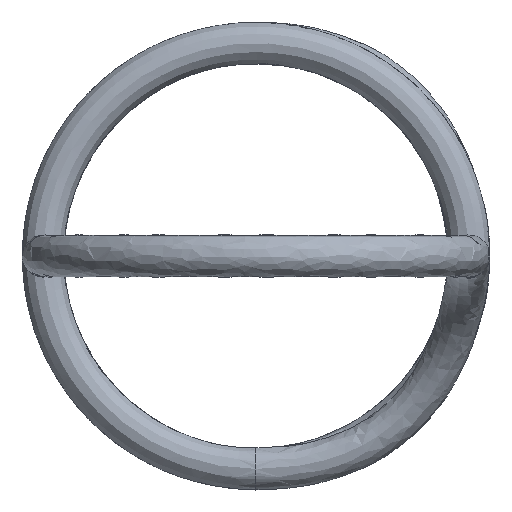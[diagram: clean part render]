
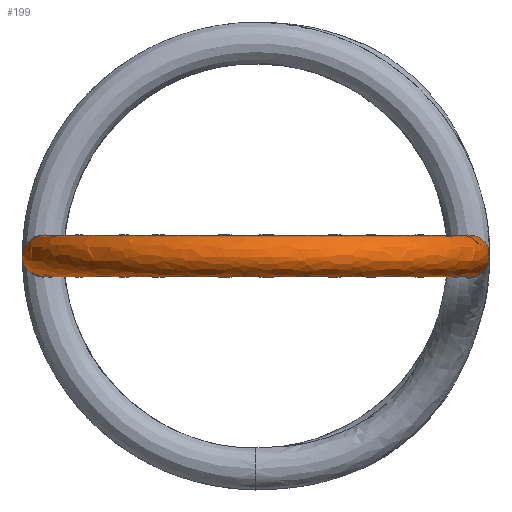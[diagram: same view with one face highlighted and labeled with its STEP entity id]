
A CAD part, front view. The second image highlights one B-rep face of the part: STEP entity #199.
In plain terms, the highlighted free-form (B-spline) face has degree [2, 2] with [9, 7] control points.
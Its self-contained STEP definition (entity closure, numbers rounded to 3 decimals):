
#15=(
BOUNDED_SURFACE()
B_SPLINE_SURFACE(2,2,((#605,#606,#607,#608,#609,#610,#611),(#612,#613,#614,
#615,#616,#617,#618),(#619,#620,#621,#622,#623,#624,#625),(#626,#627,#628,
#629,#630,#631,#632),(#633,#634,#635,#636,#637,#638,#639),(#640,#641,#642,
#643,#644,#645,#646),(#647,#648,#649,#650,#651,#652,#653),(#654,#655,#656,
#657,#658,#659,#660),(#661,#662,#663,#664,#665,#666,#667)),
 .UNSPECIFIED.,.T.,.F.,.F.)
B_SPLINE_SURFACE_WITH_KNOTS((3,2,2,2,3),(3,2,2,3),(0.,1.571,3.142,
4.712,6.283),(0.,1.08,2.16,
3.241),.UNSPECIFIED.)
GEOMETRIC_REPRESENTATION_ITEM()
RATIONAL_B_SPLINE_SURFACE(((1.,0.858,1.,0.858,1.,
0.858,1.),(0.707,0.606,0.707,
0.606,0.707,0.606,0.707),
(1.,0.858,1.,0.858,1.,0.858,1.),(0.707,
0.606,0.707,0.606,0.707,
0.606,0.707),(1.,0.858,1.,0.858,
1.,0.858,1.),(0.707,0.606,0.707,
0.606,0.707,0.606,0.707),
(1.,0.858,1.,0.858,1.,0.858,1.),(0.707,
0.606,0.707,0.606,0.707,
0.606,0.707),(1.,0.858,1.,0.858,
1.,0.858,1.)))
REPRESENTATION_ITEM('')
SURFACE()
);
#22=CIRCLE('',#234,2.25);
#23=CIRCLE('',#235,21.751);
#24=CIRCLE('',#236,2.25);
#37=FACE_OUTER_BOUND('',#48,.T.);
#48=EDGE_LOOP('',(#142,#143,#144,#145));
#85=VERTEX_POINT('',#530);
#88=VERTEX_POINT('',#668);
#106=EDGE_CURVE('',#85,#85,#22,.T.);
#109=EDGE_CURVE('',#85,#88,#23,.T.);
#110=EDGE_CURVE('',#88,#88,#24,.T.);
#142=ORIENTED_EDGE('',*,*,#106,.T.);
#143=ORIENTED_EDGE('',*,*,#109,.T.);
#144=ORIENTED_EDGE('',*,*,#110,.F.);
#145=ORIENTED_EDGE('',*,*,#109,.F.);
#199=ADVANCED_FACE('',(#37),#15,.T.);
#234=AXIS2_PLACEMENT_3D('',#541,#256,#257);
#235=AXIS2_PLACEMENT_3D('',#669,#258,#259);
#236=AXIS2_PLACEMENT_3D('',#670,#260,#261);
#256=DIRECTION('center_axis',(0.,-1.,0.));
#257=DIRECTION('ref_axis',(-0.444,0.,-0.896));
#258=DIRECTION('center_axis',(0.,0.,
-1.));
#259=DIRECTION('ref_axis',(1.,0.,0.));
#260=DIRECTION('center_axis',(0.099,0.995,0.));
#261=DIRECTION('ref_axis',(0.442,-0.044,-0.896));
#530=CARTESIAN_POINT('',(21.751,-78.25,-2.016));
#541=CARTESIAN_POINT('Origin',(22.75,-78.25,0.));
#605=CARTESIAN_POINT('Ctrl Pts',(21.751,-78.25,-2.016));
#606=CARTESIAN_POINT('Ctrl Pts',(21.751,-91.291,-2.016));
#607=CARTESIAN_POINT('Ctrl Pts',(10.248,-97.435,-2.016));
#608=CARTESIAN_POINT('Ctrl Pts',(-1.254,-103.58,-2.016));
#609=CARTESIAN_POINT('Ctrl Pts',(-12.093,-96.329,-2.016));
#610=CARTESIAN_POINT('Ctrl Pts',(-22.933,-89.078,-2.016));
#611=CARTESIAN_POINT('Ctrl Pts',(-21.645,-76.101,-2.016));
#612=CARTESIAN_POINT('Ctrl Pts',(23.767,-78.25,-3.015));
#613=CARTESIAN_POINT('Ctrl Pts',(23.767,-92.499,-3.015));
#614=CARTESIAN_POINT('Ctrl Pts',(11.198,-99.213,-3.015));
#615=CARTESIAN_POINT('Ctrl Pts',(-1.37,-105.927,-3.015));
#616=CARTESIAN_POINT('Ctrl Pts',(-13.214,-98.005,-3.015));
#617=CARTESIAN_POINT('Ctrl Pts',(-25.058,-90.082,-3.015));
#618=CARTESIAN_POINT('Ctrl Pts',(-23.651,-75.902,-3.015));
#619=CARTESIAN_POINT('Ctrl Pts',(24.766,-78.25,-0.999));
#620=CARTESIAN_POINT('Ctrl Pts',(24.766,-93.098,-0.999));
#621=CARTESIAN_POINT('Ctrl Pts',(11.669,-100.095,-0.999));
#622=CARTESIAN_POINT('Ctrl Pts',(-1.428,-107.091,-0.999));
#623=CARTESIAN_POINT('Ctrl Pts',(-13.77,-98.835,-0.999));
#624=CARTESIAN_POINT('Ctrl Pts',(-26.112,-90.579,-0.999));
#625=CARTESIAN_POINT('Ctrl Pts',(-24.645,-75.804,-0.999));
#626=CARTESIAN_POINT('Ctrl Pts',(25.765,-78.25,1.017));
#627=CARTESIAN_POINT('Ctrl Pts',(25.765,-93.697,1.017));
#628=CARTESIAN_POINT('Ctrl Pts',(12.14,-100.976,1.017));
#629=CARTESIAN_POINT('Ctrl Pts',(-1.486,-108.254,1.017));
#630=CARTESIAN_POINT('Ctrl Pts',(-14.325,-99.666,1.017));
#631=CARTESIAN_POINT('Ctrl Pts',(-27.165,-91.077,1.017));
#632=CARTESIAN_POINT('Ctrl Pts',(-25.639,-75.705,1.017));
#633=CARTESIAN_POINT('Ctrl Pts',(23.749,-78.25,2.016));
#634=CARTESIAN_POINT('Ctrl Pts',(23.749,-92.489,2.016));
#635=CARTESIAN_POINT('Ctrl Pts',(11.19,-99.198,2.016));
#636=CARTESIAN_POINT('Ctrl Pts',(-1.369,-105.907,2.016));
#637=CARTESIAN_POINT('Ctrl Pts',(-13.204,-97.99,2.016));
#638=CARTESIAN_POINT('Ctrl Pts',(-25.039,-90.073,2.016));
#639=CARTESIAN_POINT('Ctrl Pts',(-23.633,-75.904,2.016));
#640=CARTESIAN_POINT('Ctrl Pts',(21.733,-78.25,3.015));
#641=CARTESIAN_POINT('Ctrl Pts',(21.733,-91.28,3.015));
#642=CARTESIAN_POINT('Ctrl Pts',(10.24,-97.419,3.015));
#643=CARTESIAN_POINT('Ctrl Pts',(-1.253,-103.559,3.015));
#644=CARTESIAN_POINT('Ctrl Pts',(-12.083,-96.314,3.015));
#645=CARTESIAN_POINT('Ctrl Pts',(-22.914,-89.07,3.015));
#646=CARTESIAN_POINT('Ctrl Pts',(-21.627,-76.103,3.015));
#647=CARTESIAN_POINT('Ctrl Pts',(20.734,-78.25,0.999));
#648=CARTESIAN_POINT('Ctrl Pts',(20.734,-90.681,0.999));
#649=CARTESIAN_POINT('Ctrl Pts',(9.769,-96.538,0.999));
#650=CARTESIAN_POINT('Ctrl Pts',(-1.195,-102.395,0.999));
#651=CARTESIAN_POINT('Ctrl Pts',(-11.528,-95.484,0.999));
#652=CARTESIAN_POINT('Ctrl Pts',(-21.861,-88.572,0.999));
#653=CARTESIAN_POINT('Ctrl Pts',(-20.633,-76.202,0.999));
#654=CARTESIAN_POINT('Ctrl Pts',(19.735,-78.25,-1.017));
#655=CARTESIAN_POINT('Ctrl Pts',(19.735,-90.082,-1.017));
#656=CARTESIAN_POINT('Ctrl Pts',(9.299,-95.657,-1.017));
#657=CARTESIAN_POINT('Ctrl Pts',(-1.138,-101.232,-1.017));
#658=CARTESIAN_POINT('Ctrl Pts',(-10.973,-94.653,-1.017));
#659=CARTESIAN_POINT('Ctrl Pts',(-20.807,-88.075,-1.017));
#660=CARTESIAN_POINT('Ctrl Pts',(-19.638,-76.301,-1.017));
#661=CARTESIAN_POINT('Ctrl Pts',(21.751,-78.25,-2.016));
#662=CARTESIAN_POINT('Ctrl Pts',(21.751,-91.291,-2.016));
#663=CARTESIAN_POINT('Ctrl Pts',(10.248,-97.435,-2.016));
#664=CARTESIAN_POINT('Ctrl Pts',(-1.254,-103.58,-2.016));
#665=CARTESIAN_POINT('Ctrl Pts',(-12.093,-96.329,-2.016));
#666=CARTESIAN_POINT('Ctrl Pts',(-22.933,-89.078,-2.016));
#667=CARTESIAN_POINT('Ctrl Pts',(-21.645,-76.101,-2.016));
#668=CARTESIAN_POINT('',(-21.645,-76.101,-2.016));
#669=CARTESIAN_POINT('Origin',(0.,-78.25,-2.016));
#670=CARTESIAN_POINT('Origin',(-22.639,-76.003,0.));
